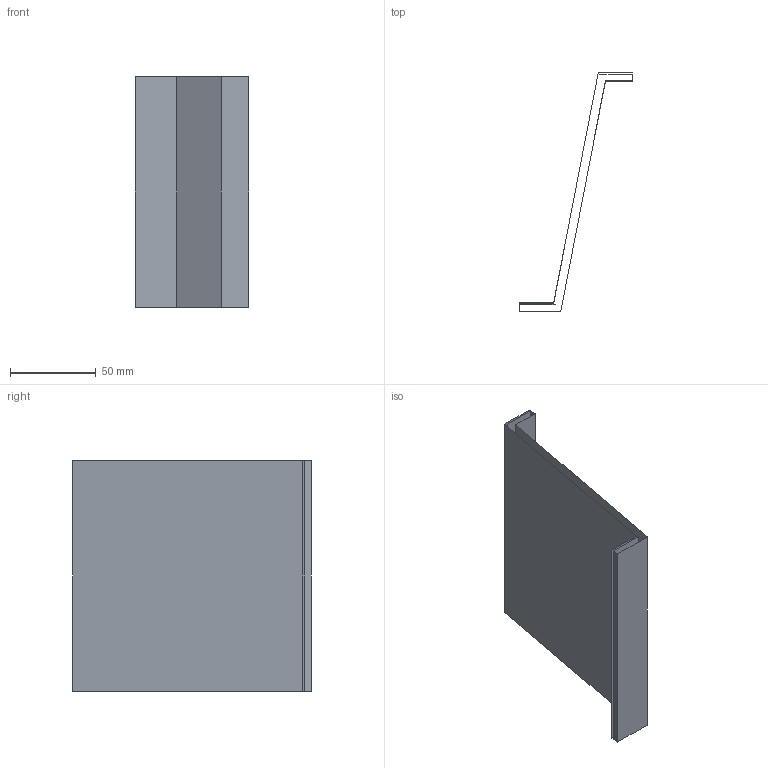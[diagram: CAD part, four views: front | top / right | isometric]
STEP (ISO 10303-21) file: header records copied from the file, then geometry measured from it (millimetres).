
FILE_DESCRIPTION(('CATIA V5 STEP Exchange'),'2;1');
FILE_NAME('C:\_Andres\UNIVERSIDAD\IQS\ASIGNATURAS\DAO\EXF\EXF-16172c\2inicio\Sastre_Cabrerizo_Ej06_v34.stp','2017-03-05T21:01:29+00:00',('none'),('none'),'CATIA Version 5-6 Release 2014 SP1 HF18','CATIA V5 STEP AP203','none');
FILE_SCHEMA(('CONFIG_CONTROL_DESIGN'));
Length unit declared in the file: millimetre
Products named in the file (1): Sastre_Cabrerizo_Ej06_v34
Bounding box: 66 x 139 x 134 mm (x, y, z)
Surface area: 53733.8 mm2 (no closed solid volume)
Topology: 0 solids, 2 shells, 10 faces, 42 edges, 36 vertices
Faces by surface type: plane 10
Entity records: 461 total; most frequent: CARTESIAN_POINT 100, DIRECTION 59, ORIENTED_EDGE 40, VECTOR 39, LINE 39, EDGE_CURVE 32, VERTEX_POINT 24, AXIS2_PLACEMENT_3D 11
